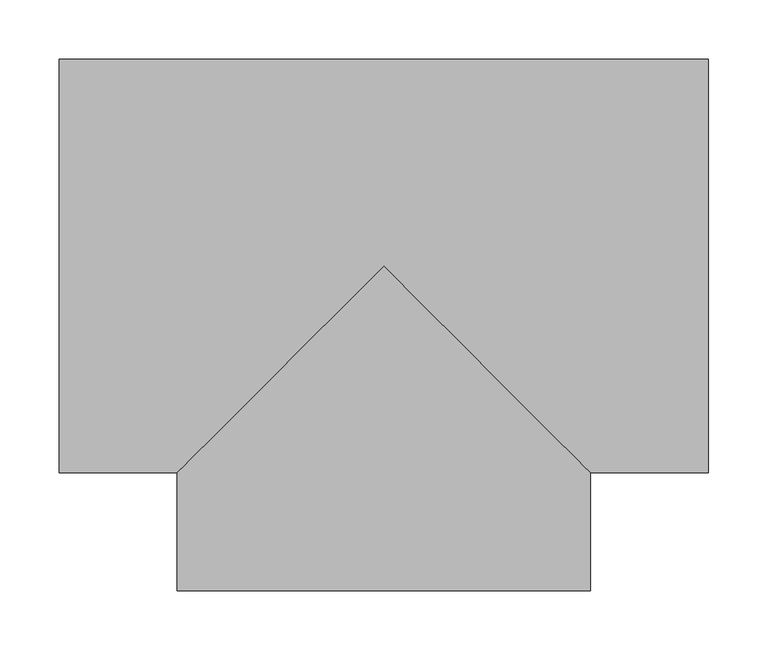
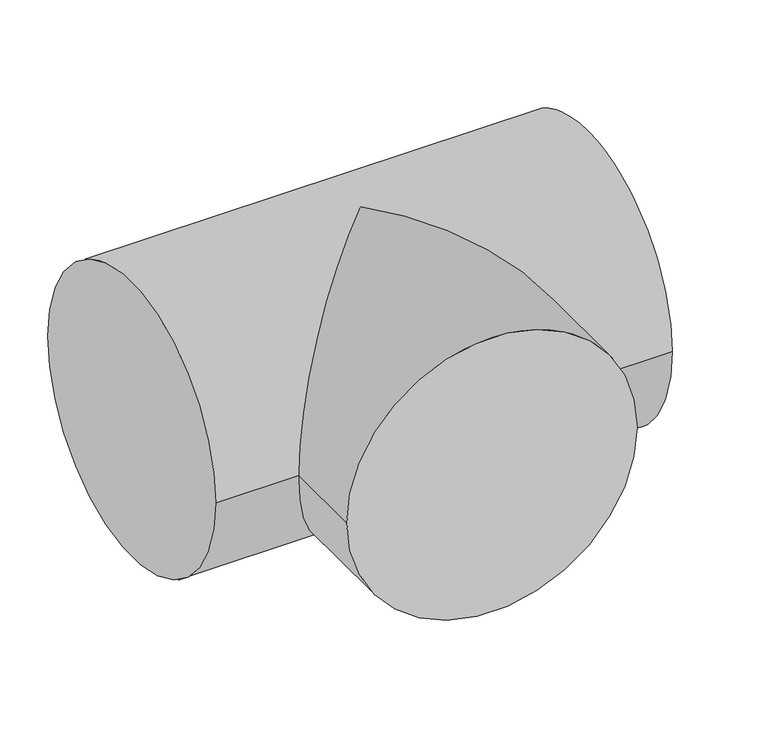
"""IFC4 building model written with IfcOpenShell, lengths in millimetres: duct fitting geometry, magicirc_tee_centric_90_001 : magicirc_tee_centric_90_001."""

from ifc_helpers import new_model, si_unit, frame, origin, place, context, project, spatial, circle_curve, ellipse_curve, source, transform, mapped, element, save
from ifc_brep_helpers import plane_surface, cylinder_surface, advanced_brep


def duct_fitting_4fcb23a4(model_context):
    return source(origin(), model_context, "Body", "AdvancedBrep", [
        advanced_brep(
        [(-275.0, -175.0, 0.0), (-275.0, 175.0, 0.0), (275.0, -175.0, 0.0), (275.0, 175.0, 0.0), (-175.0, -175.0, 0.0), (0.0, 0.0, 175.0), (175.0, -175.0, 0.0), (0.0, 0.0, -175.0), (-175.0, -275.0, 0.0), (175.0, -275.0, 0.0)],
        [
            (0, 1, circle_curve(frame((-275.0, 0.0, 0.0), z_axis=(-1.0, 0.0, 0.0), x_axis=(0.0, 1.0, 0.0)), 175.0)),
            (1, 0, circle_curve(frame((-275.0, 0.0, 0.0), z_axis=(-1.0, 0.0, 0.0), x_axis=(0.0, 1.0, 0.0)), 175.0)),
            (2, 3, circle_curve(frame((275.0, 0.0, 0.0), z_axis=(1.0, 0.0, 0.0), x_axis=(0.0, 1.0, 0.0)), 175.0)),
            (3, 2, circle_curve(frame((275.0, 0.0, 0.0), z_axis=(1.0, 0.0, 0.0), x_axis=(0.0, 1.0, 0.0)), 175.0)),
            (0, 4),
            (4, 5, ellipse_curve(frame((0.0, 0.0, 0.0), z_axis=(-0.7071067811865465, 0.7071067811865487, 0.0), x_axis=(-0.7071067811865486, -0.7071067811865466, 0.0)), 247.4873734, 175.0)),
            (5, 6, ellipse_curve(frame((0.0, 0.0, 0.0), z_axis=(0.7071067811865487, 0.7071067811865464, 0.0), x_axis=(-0.7071067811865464, 0.7071067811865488, 0.0)), 247.4873734, 175.0)),
            (6, 2),
            (3, 1),
            (6, 7, ellipse_curve(frame((0.0, 0.0, 0.0), z_axis=(0.7071067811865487, 0.7071067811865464, 0.0), x_axis=(-0.7071067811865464, 0.7071067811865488, 0.0)), 247.4873734, 175.0)),
            (7, 4, ellipse_curve(frame((0.0, 0.0, 0.0), z_axis=(-0.7071067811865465, 0.7071067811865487, 0.0), x_axis=(-0.7071067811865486, -0.7071067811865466, 0.0)), 247.4873734, 175.0)),
            (8, 9, circle_curve(frame((0.0, -275.0, 0.0), z_axis=(0.0, -1.0, 0.0), x_axis=(1.0, 0.0, 0.0)), 175.0)),
            (9, 8, circle_curve(frame((0.0, -275.0, 0.0), z_axis=(0.0, -1.0, 0.0), x_axis=(1.0, 0.0, 0.0)), 175.0)),
            (9, 6),
            (4, 8),
        ],
        [
            plane_surface(frame((-275.0, 0.0, 0.0), z_axis=(-1.0, 0.0, 0.0), x_axis=(0.0, 0.0, 1.0))),
            plane_surface(frame((275.0, 0.0, 0.0), z_axis=(1.0, 0.0, 0.0), x_axis=(0.0, 0.0, 1.0))),
            cylinder_surface(frame((-275.0, 0.0, 0.0), z_axis=(-1.0, 0.0, 0.0), x_axis=(0.0, 1.0, 0.0)), 175.0),
            plane_surface(frame((0.0, -275.0, 0.0), z_axis=(0.0, -1.0, 0.0), x_axis=(0.0, 0.0, 1.0))),
            cylinder_surface(frame((0.0, 0.0, 0.0), z_axis=(0.0, 1.0, 0.0), x_axis=(1.0, 0.0, 0.0)), 175.0),
        ],
        [
            (0, [[1, 2]]),
            (1, [[3, 4]]),
            (2, [[-1, 5, 6, 7, 8, -4, 9]]),
            (2, [[-2, -9, -3, -8, 10, 11, -5]]),
            (3, [[12, 13]]),
            (4, [[-13, 14, -7, -6, 15]]),
            (4, [[-12, -15, -11, -10, -14]]),
        ],
    ),
    ])


if __name__ == "__main__":
    model = new_model("IFC4")
    model_context = context("Model", 3, world=origin())
    ifc_project = project(units=[si_unit("LENGTHUNIT", "METRE", prefix="MILLI")], contexts=[model_context])
    site = spatial("IfcSite", under=ifc_project)
    building = spatial("IfcBuilding", under=site)
    placement = place(None, origin())
    duct_fitting_shape = duct_fitting_4fcb23a4(model_context)
    element("IfcDuctFitting", 1, ObjectType="magicirc_tee_centric_90_001 : magicirc_tee_centric_90_001", at=placement, inside=building, context=model_context, shape_type="MappedRepresentation", body=[
        mapped(duct_fitting_shape, transform((0.0, 0.0, 0.0), x_axis=(1.0, 0.0, 0.0), y_axis=(0.0, 1.0, 0.0), z_axis=(0.0, 0.0, 1.0))),
    ])
    save(model, "model.ifc")
